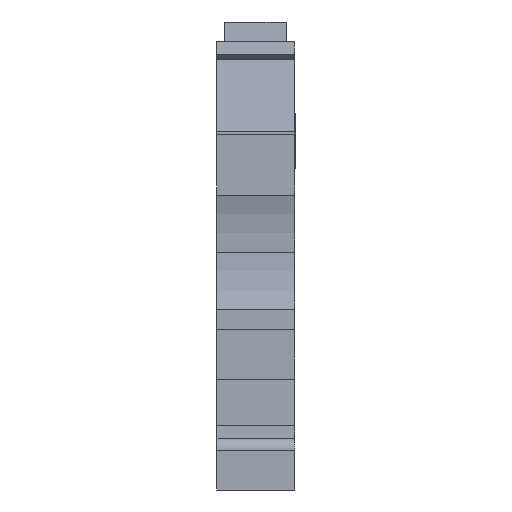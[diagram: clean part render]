
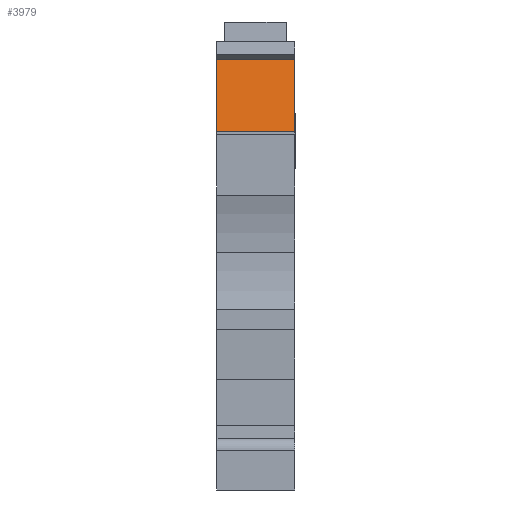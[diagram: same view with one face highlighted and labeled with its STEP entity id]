
A CAD part, front view. The second image highlights one B-rep face of the part: STEP entity #3979.
In plain terms, the highlighted planar face has unit normal (0, -0.985, 0.174).
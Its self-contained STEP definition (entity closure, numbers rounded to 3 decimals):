
#2490=CARTESIAN_POINT('',(6.15,2.683,34.037));
#2491=VERTEX_POINT('',#2490);
#2498=CARTESIAN_POINT('',(6.15,1.584,27.808));
#2499=VERTEX_POINT('',#2498);
#2500=CARTESIAN_POINT('',(6.15,1.584,27.808));
#2501=DIRECTION('',(-0.,0.174,0.985));
#2502=VECTOR('',#2501,6.325);
#2503=LINE('',#2500,#2502);
#2504=EDGE_CURVE('',#2499,#2491,#2503,.T.);
#3949=CARTESIAN_POINT('',(-0.619,2.608,33.614));
#3950=DIRECTION('',(0.,0.985,-0.174));
#3951=DIRECTION('',(0.,-0.174,-0.985));
#3952=AXIS2_PLACEMENT_3D('',#3949,#3950,#3951);
#3953=PLANE('',#3952);
#3954=CARTESIAN_POINT('',(0.,1.584,27.808));
#3955=VERTEX_POINT('',#3954);
#3956=CARTESIAN_POINT('',(6.15,1.584,27.808));
#3957=DIRECTION('',(-1.,0.,0.));
#3958=VECTOR('',#3957,6.15);
#3959=LINE('',#3956,#3958);
#3960=EDGE_CURVE('',#2499,#3955,#3959,.T.);
#3961=ORIENTED_EDGE('',*,*,#3960,.F.);
#3962=ORIENTED_EDGE('',*,*,#2504,.T.);
#3963=CARTESIAN_POINT('',(0.,2.683,34.037));
#3964=VERTEX_POINT('',#3963);
#3965=CARTESIAN_POINT('',(6.15,2.683,34.037));
#3966=DIRECTION('',(-1.,0.,0.));
#3967=VECTOR('',#3966,6.15);
#3968=LINE('',#3965,#3967);
#3969=EDGE_CURVE('',#2491,#3964,#3968,.T.);
#3970=ORIENTED_EDGE('',*,*,#3969,.T.);
#3971=CARTESIAN_POINT('',(0.,2.683,34.037));
#3972=DIRECTION('',(0.,-0.174,-0.985));
#3973=VECTOR('',#3972,6.325);
#3974=LINE('',#3971,#3973);
#3975=EDGE_CURVE('',#3964,#3955,#3974,.T.);
#3976=ORIENTED_EDGE('',*,*,#3975,.T.);
#3977=EDGE_LOOP('',(#3961,#3962,#3970,#3976));
#3978=FACE_BOUND('',#3977,.T.);
#3979=ADVANCED_FACE('',(#3978),#3953,.F.);
